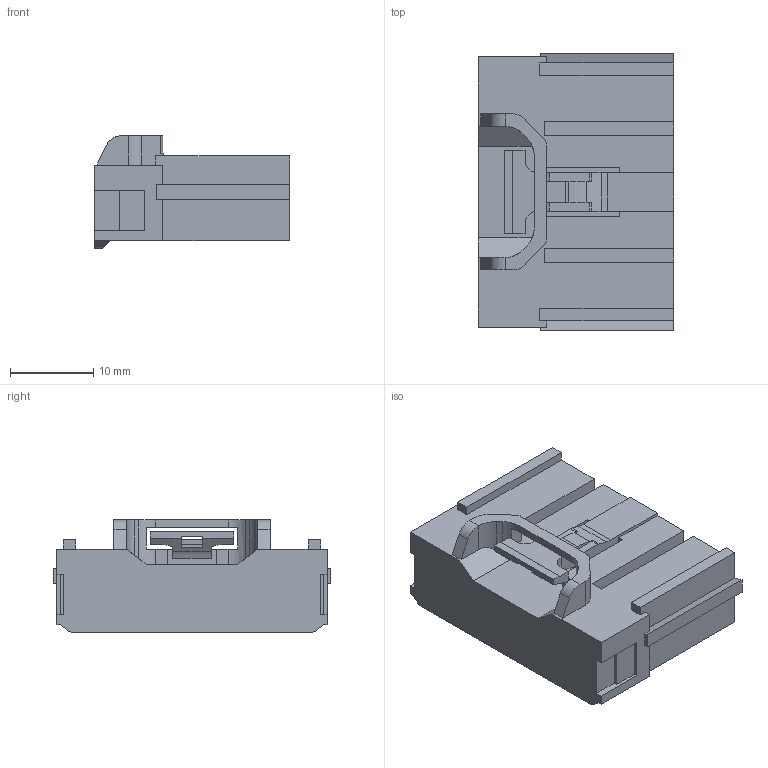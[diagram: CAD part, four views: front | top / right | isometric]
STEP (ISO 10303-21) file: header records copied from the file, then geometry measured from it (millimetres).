
FILE_DESCRIPTION(('CATIA V5 STEP','CAx-IF Rec.Pracs.--- Model Styling and Organization---1.4--- 2014-01-23'),'2;1');
FILE_NAME('\\fs0427\Server\共有情報\コネクタ開発部\特命業務\特ｰ35ｰ部品総合カタログメンテナンス\21年度\掲載用３Dモデル\ETHERNET\ETHERNET３D(トヨタ提出していないものがあるのでチェックしてください）\6910-8301.stp','2023-04-06T00:10:33+00:00',('none'),('none'),'CATIA Version 5-6 Release 2017 SP5 HF58','CATIA V5 STEP AP214','none');
FILE_SCHEMA(('AUTOMOTIVE_DESIGN { 1 0 10303 214 1 1 1 1 }'));
Length unit declared in the file: millimetre
Products named in the file (1): 6910-8301
Bounding box: 23.4 x 33.3 x 13.45 mm (x, y, z)
Volume: 6557.4 mm3; surface area: 3347.9 mm2
Topology: 1 solids, 1 shells, 138 faces, 414 edges, 274 vertices
Faces by surface type: plane 118, cylinder 20
Entity records: 4484 total; most frequent: CARTESIAN_POINT 848, ORIENTED_EDGE 828, DIRECTION 632, EDGE_CURVE 414, VECTOR 366, LINE 366, VERTEX_POINT 274, AXIS2_PLACEMENT_3D 153
